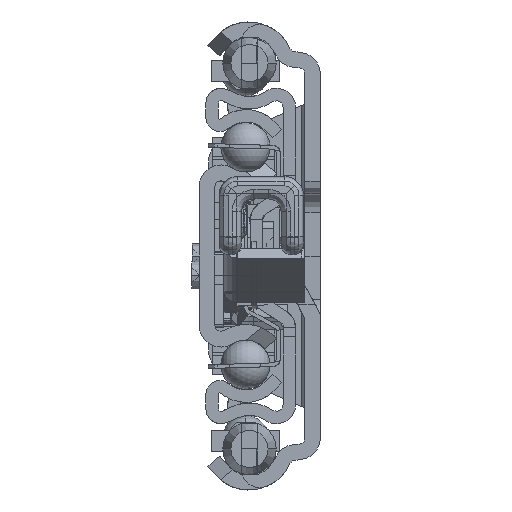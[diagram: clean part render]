
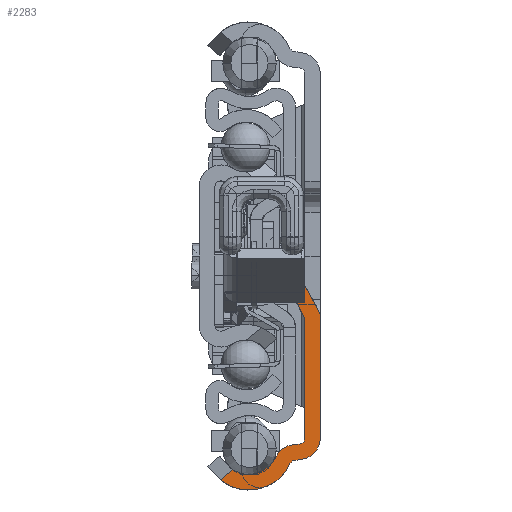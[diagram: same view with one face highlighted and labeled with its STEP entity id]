
A CAD part, left-side view. The second image highlights one B-rep face of the part: STEP entity #2283.
In plain terms, the highlighted planar face has unit normal (-1, 0, 0).
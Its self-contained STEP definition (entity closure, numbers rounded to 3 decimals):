
#45=DIRECTION('',(0.,0.769,-0.639));
#46=VECTOR('',#45,2.575);
#47=CARTESIAN_POINT('',(0.,14.098,-34.377));
#48=LINE('',#47,#46);
#49=CARTESIAN_POINT('',(0.,11.5,-30.4));
#50=DIRECTION('',(-1.,0.,0.));
#51=DIRECTION('',(0.,0.547,-0.837));
#52=AXIS2_PLACEMENT_3D('',#49,#50,#51);
#54=CARTESIAN_POINT('',(0.,4.008,-33.854));
#55=DIRECTION('',(-1.,0.,0.));
#56=DIRECTION('',(0.,0.087,0.996));
#57=AXIS2_PLACEMENT_3D('',#54,#55,#56);
#59=DIRECTION('',(0.,-0.996,0.087));
#60=VECTOR('',#59,0.904);
#61=CARTESIAN_POINT('',(0.,4.313,-30.368));
#62=LINE('',#61,#60);
#63=DIRECTION('',(0.,0.,1.));
#64=VECTOR('',#63,19.293);
#65=CARTESIAN_POINT('',(0.,2.5,-29.293));
#66=LINE('',#65,#64);
#67=DIRECTION('',(0.,-0.477,-0.879));
#68=VECTOR('',#67,6.873);
#69=CARTESIAN_POINT('',(0.,5.775,-3.958));
#70=LINE('',#69,#68);
#71=CARTESIAN_POINT('',(0.,0.5,-1.099));
#72=DIRECTION('',(-1.,0.,0.));
#73=DIRECTION('',(0.,0.946,-0.324));
#74=AXIS2_PLACEMENT_3D('',#71,#72,#73);
#76=DIRECTION('',(0.,1.,0.));
#77=VECTOR('',#76,2.78);
#78=CARTESIAN_POINT('',(0.,3.397,-3.04));
#79=LINE('',#78,#77);
#80=CARTESIAN_POINT('',(0.,2.5,-9.942));
#81=DIRECTION('',(1.,0.,0.));
#82=DIRECTION('',(0.,-0.879,0.477));
#83=AXIS2_PLACEMENT_3D('',#80,#81,#82);
#85=CARTESIAN_POINT('',(0.,3.5,-29.293));
#86=DIRECTION('',(-1.,0.,0.));
#87=DIRECTION('',(0.,-0.087,-0.996));
#88=AXIS2_PLACEMENT_3D('',#85,#86,#87);
#90=DIRECTION('',(0.,0.996,-0.087));
#91=VECTOR('',#90,0.904);
#92=CARTESIAN_POINT('',(0.,3.195,-32.78));
#93=LINE('',#92,#91);
#94=CARTESIAN_POINT('',(0.,11.5,-30.4));
#95=DIRECTION('',(1.,0.,0.));
#96=DIRECTION('',(0.,-0.908,-0.419));
#97=AXIS2_PLACEMENT_3D('',#94,#95,#96);
#615=DIRECTION('',(0.,0.,1.));
#616=VECTOR('',#615,19.351);
#617=CARTESIAN_POINT('',(0.,0.,-29.293));
#618=LINE('',#617,#616);
#1022=CARTESIAN_POINT('',(0.,16.079,
-36.021));
#1075=CARTESIAN_POINT('',(0.,14.098,
-34.377));
#1364=CARTESIAN_POINT('',(0.,3.5,-29.293));
#1365=DIRECTION('',(1.,0.,0.));
#1366=DIRECTION('',(0.,-1.,0.));
#1367=AXIS2_PLACEMENT_3D('',#1364,#1365,#1366);
#1374=CARTESIAN_POINT('',(0.,4.008,-33.854));
#1375=DIRECTION('',(1.,0.,0.));
#1376=DIRECTION('',(0.,0.908,0.419));
#1377=AXIS2_PLACEMENT_3D('',#1374,#1375,#1376);
#1414=DIRECTION('',(0.,0.477,0.879));
#1415=VECTOR('',#1414,6.495);
#1416=CARTESIAN_POINT('',(0.,0.302,-8.751));
#1417=LINE('',#1416,#1415);
#1421=CARTESIAN_POINT('',(0.,3.397,-3.04));
#1535=CARTESIAN_POINT('',(0.,6.177,-3.04));
#1728=CARTESIAN_POINT('',(0.,2.5,-29.293));
#1729=CARTESIAN_POINT('',(0.,3.413,-30.289));
#1730=VERTEX_POINT('',#1728);
#1731=VERTEX_POINT('',#1729);
#1740=CARTESIAN_POINT('',(0.,4.916,-33.436));
#1741=CARTESIAN_POINT('',(0.,4.095,-32.858));
#1742=VERTEX_POINT('',#1740);
#1743=VERTEX_POINT('',#1741);
#1744=CARTESIAN_POINT('',(0.,4.313,-30.368));
#1745=CARTESIAN_POINT('',(0.,7.186,-32.389));
#1746=VERTEX_POINT('',#1744);
#1747=VERTEX_POINT('',#1745);
#1756=CARTESIAN_POINT('',(0.,3.195,-32.78));
#1757=CARTESIAN_POINT('',(0.,0.,-29.293));
#1758=VERTEX_POINT('',#1756);
#1759=VERTEX_POINT('',#1757);
#2128=VERTEX_POINT('',#1022);
#2136=VERTEX_POINT('',#1075);
#2161=CARTESIAN_POINT('',(0.,2.5,-10.));
#2162=VERTEX_POINT('',#2161);
#2199=VERTEX_POINT('',#1421);
#2200=CARTESIAN_POINT('',(0.,0.302,-8.751));
#2201=VERTEX_POINT('',#2200);
#2203=CARTESIAN_POINT('',(0.,0.,-9.942));
#2204=VERTEX_POINT('',#2203);
#2209=VERTEX_POINT('',#1535);
#2210=CARTESIAN_POINT('',(0.,5.775,-3.958));
#2211=VERTEX_POINT('',#2210);
#2244=CARTESIAN_POINT('',(0.,0.,0.));
#2245=DIRECTION('',(1.,0.,0.));
#2246=DIRECTION('',(0.,-1.,0.));
#2247=AXIS2_PLACEMENT_3D('',#2244,#2245,#2246);
#2248=PLANE('',#2247);
#2250=ORIENTED_EDGE('',*,*,#2249,.F.);
#2252=ORIENTED_EDGE('',*,*,#2251,.T.);
#2254=ORIENTED_EDGE('',*,*,#2253,.F.);
#2256=ORIENTED_EDGE('',*,*,#2255,.T.);
#2258=ORIENTED_EDGE('',*,*,#2257,.F.);
#2260=ORIENTED_EDGE('',*,*,#2259,.T.);
#2262=ORIENTED_EDGE('',*,*,#2261,.F.);
#2264=ORIENTED_EDGE('',*,*,#2263,.F.);
#2266=ORIENTED_EDGE('',*,*,#2265,.F.);
#2268=ORIENTED_EDGE('',*,*,#2267,.F.);
#2270=ORIENTED_EDGE('',*,*,#2269,.T.);
#2272=ORIENTED_EDGE('',*,*,#2271,.F.);
#2274=ORIENTED_EDGE('',*,*,#2273,.F.);
#2276=ORIENTED_EDGE('',*,*,#2275,.T.);
#2278=ORIENTED_EDGE('',*,*,#2277,.F.);
#2280=ORIENTED_EDGE('',*,*,#2279,.T.);
#2281=EDGE_LOOP('',(#2250,#2252,#2254,#2256,#2258,#2260,#2262,#2264,#2266,#2268,
#2270,#2272,#2274,#2276,#2278,#2280));
#2282=FACE_OUTER_BOUND('',#2281,.F.);
#53=CIRCLE('',#52,4.75);
#58=CIRCLE('',#57,3.5);
#75=CIRCLE('',#74,6.);
#84=CIRCLE('',#83,2.5);
#89=CIRCLE('',#88,3.5);
#98=CIRCLE('',#97,7.25);
#1368=CIRCLE('',#1367,1.);
#1378=CIRCLE('',#1377,1.);
#2249=EDGE_CURVE('',#2136,#2128,#48,.T.);
#2251=EDGE_CURVE('',#2136,#1747,#53,.T.);
#2253=EDGE_CURVE('',#1746,#1747,#58,.T.);
#2255=EDGE_CURVE('',#1746,#1731,#62,.T.);
#2257=EDGE_CURVE('',#1730,#1731,#1368,.T.);
#2259=EDGE_CURVE('',#1730,#2162,#66,.T.);
#2261=EDGE_CURVE('',#2211,#2162,#70,.T.);
#2263=EDGE_CURVE('',#2209,#2211,#75,.T.);
#2265=EDGE_CURVE('',#2199,#2209,#79,.T.);
#2267=EDGE_CURVE('',#2201,#2199,#1417,.T.);
#2269=EDGE_CURVE('',#2201,#2204,#84,.T.);
#2271=EDGE_CURVE('',#1759,#2204,#618,.T.);
#2273=EDGE_CURVE('',#1758,#1759,#89,.T.);
#2275=EDGE_CURVE('',#1758,#1743,#93,.T.);
#2277=EDGE_CURVE('',#1742,#1743,#1378,.T.);
#2279=EDGE_CURVE('',#1742,#2128,#98,.T.);
#2283=ADVANCED_FACE('',(#2282),#2248,.F.);
